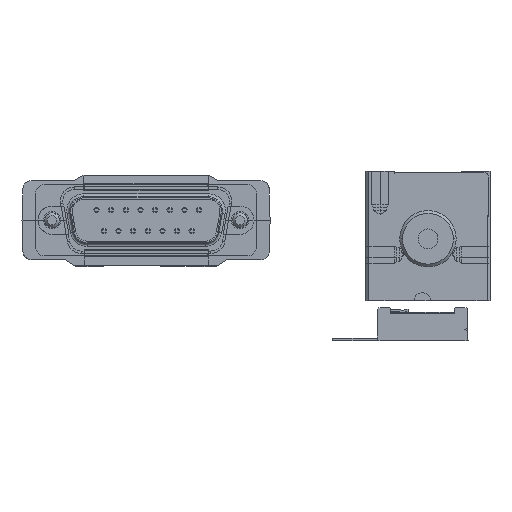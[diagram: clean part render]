
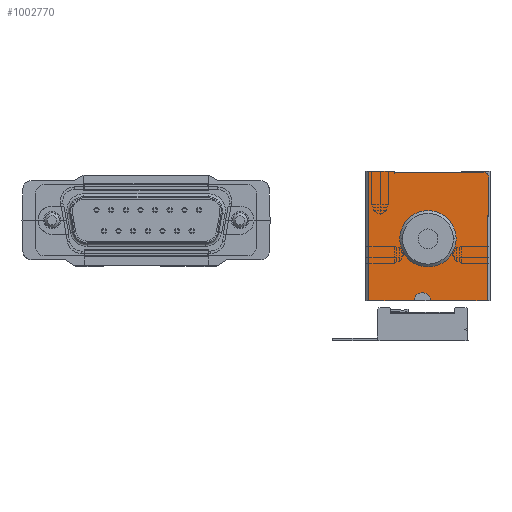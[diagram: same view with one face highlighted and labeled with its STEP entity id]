
A CAD part, front view. The second image highlights one B-rep face of the part: STEP entity #1002770.
In plain terms, the highlighted planar face has unit normal (0, -1, 0) as drawn and (1, 0, 0) by its records, which use the part's own axes.
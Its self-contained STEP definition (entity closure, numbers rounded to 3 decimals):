
#994090=CARTESIAN_POINT('',(40.,22.,0.));
#994100=DIRECTION('',(0.,-1.,0.));
#994110=VECTOR('',#994100,1.);
#994120=LINE('',#994090,#994110);
#994130=CARTESIAN_POINT('',(40.,5.,0.));
#994140=VERTEX_POINT('',#994130);
#994150=CARTESIAN_POINT('',(40.,0.5,0.));
#994160=VERTEX_POINT('',#994150);
#994170=EDGE_CURVE('',#994140,#994160,#994120,.T.);
#997040=CARTESIAN_POINT('',(40.,0.5,-23.));
#997050=VERTEX_POINT('',#997040);
#997080=CARTESIAN_POINT('',(40.,0.,-23.));
#997090=DIRECTION('',(0.,1.,0.));
#997100=VECTOR('',#997090,1.);
#997110=LINE('',#997080,#997100);
#997120=CARTESIAN_POINT('',(40.,8.6,-23.));
#997130=VERTEX_POINT('',#997120);
#997140=EDGE_CURVE('',#997050,#997130,#997110,.T.);
#997360=CARTESIAN_POINT('',(40.,11.4,-23.));
#997370=VERTEX_POINT('',#997360);
#997400=CARTESIAN_POINT('',(40.,21.5,-23.));
#997410=VERTEX_POINT('',#997400);
#997420=EDGE_CURVE('',#997370,#997410,#997110,.T.);
#999340=CARTESIAN_POINT('',(40.,11.4,0.));
#999350=DIRECTION('',(0.,0.,1.));
#999360=VECTOR('',#999350,1.);
#999370=LINE('',#999340,#999360);
#999380=CARTESIAN_POINT('',(40.,11.4,-22.8));
#999390=VERTEX_POINT('',#999380);
#999400=EDGE_CURVE('',#997370,#999390,#999370,.T.);
#1000070=CARTESIAN_POINT('',(40.,9.8,-22.8));
#1000080=DIRECTION('',(-1.,0.,0.));
#1000090=DIRECTION('',(0.,1.,0.));
#1000100=AXIS2_PLACEMENT_3D('',#1000070,#1000080,#1000090);
#1000110=CIRCLE('',#1000100,1.2);
#1000120=CARTESIAN_POINT('',(40.,8.6,-22.8));
#1000130=VERTEX_POINT('',#1000120);
#1000140=CARTESIAN_POINT('',(40.,9.8,-21.6));
#1000150=VERTEX_POINT('',#1000140);
#1000160=EDGE_CURVE('',#1000130,#1000150,#1000110,.T.);
#1000390=CARTESIAN_POINT('',(40.,0.,-21.6));
#1000400=DIRECTION('',(0.,-1.,0.));
#1000410=VECTOR('',#1000400,1.);
#1000420=LINE('',#1000390,#1000410);
#1000430=CARTESIAN_POINT('',(40.,10.2,-21.6));
#1000440=VERTEX_POINT('',#1000430);
#1000450=EDGE_CURVE('',#1000440,#1000150,#1000420,.T.);
#1000650=CARTESIAN_POINT('',(40.,10.2,-22.8));
#1000660=DIRECTION('',(-1.,0.,0.));
#1000670=DIRECTION('',(0.,1.,0.));
#1000680=AXIS2_PLACEMENT_3D('',#1000650,#1000660,#1000670);
#1000690=CIRCLE('',#1000680,1.2);
#1000700=EDGE_CURVE('',#1000440,#999390,#1000690,.T.);
#1000830=CARTESIAN_POINT('',(40.,8.6,0.));
#1000840=DIRECTION('',(0.,0.,-1.));
#1000850=VECTOR('',#1000840,1.);
#1000860=LINE('',#1000830,#1000850);
#1000870=EDGE_CURVE('',#1000130,#997130,#1000860,.T.);
#1000980=CARTESIAN_POINT('',(40.,5.846,-7.9));
#1000990=DIRECTION('',(0.,-1.,0.));
#1001000=VECTOR('',#1000990,1.);
#1001010=LINE('',#1000980,#1001000);
#1001020=CARTESIAN_POINT('',(40.,21.8,-7.9));
#1001030=VERTEX_POINT('',#1001020);
#1001040=CARTESIAN_POINT('',(40.,21.5,-7.9));
#1001050=VERTEX_POINT('',#1001040);
#1001060=EDGE_CURVE('',#1001030,#1001050,#1001010,.T.);
#1001790=CARTESIAN_POINT('',(40.,0.1,-0.8))
;
#1001800=DIRECTION('',(1.,-0.,0.));
#1001810=DIRECTION('',(0.,0.,-1.));
#1001820=AXIS2_PLACEMENT_3D('',#1001790,#1001800,#1001810);
#1001830=PLANE('',#1001820);
#1001840=CARTESIAN_POINT('',(40.,20.9,-1.1));
#1001850=DIRECTION('',(1.,0.,0.));
#1001860=DIRECTION('',(0.,-1.,0.));
#1001870=AXIS2_PLACEMENT_3D('',#1001840,#1001850,#1001860);
#1001880=CIRCLE('',#1001870,0.9);
#1001890=CARTESIAN_POINT('',(40.,21.8,-1.1));
#1001900=VERTEX_POINT('',#1001890);
#1001910=CARTESIAN_POINT('',(40.,20.9,-0.2));
#1001920=VERTEX_POINT('',#1001910);
#1001930=EDGE_CURVE('',#1001900,#1001920,#1001880,.T.);
#1001940=ORIENTED_EDGE('',*,*,#1001930,.T.);
#1001950=CARTESIAN_POINT('',(40.,21.8,-0.8));
#1001960=DIRECTION('',(0.,0.,1.));
#1001970=VECTOR('',#1001960,1.);
#1001980=LINE('',#1001950,#1001970);
#1001990=EDGE_CURVE('',#1001030,#1001900,#1001980,.T.);
#1002000=ORIENTED_EDGE('',*,*,#1001990,.T.);
#1002010=ORIENTED_EDGE('',*,*,#1001060,.F.);
#1002020=CARTESIAN_POINT('',(40.,21.5,0.));
#1002030=DIRECTION('',(0.,0.,1.));
#1002040=VECTOR('',#1002030,1.);
#1002050=LINE('',#1002020,#1002040);
#1002060=CARTESIAN_POINT('',(40.,21.5,-8.));
#1002070=VERTEX_POINT('',#1002060);
#1002080=EDGE_CURVE('',#1002070,#1001050,#1002050,.T.);
#1002090=ORIENTED_EDGE('',*,*,#1002080,.T.);
#1002100=CARTESIAN_POINT('',(40.,21.5,-15.5));
#1002110=DIRECTION('',(0.,0.,-1.));
#1002120=VECTOR('',#1002110,1.);
#1002130=LINE('',#1002100,#1002120);
#1002140=EDGE_CURVE('',#1002070,#997410,#1002130,.T.);
#1002150=ORIENTED_EDGE('',*,*,#1002140,.F.);
#1002160=ORIENTED_EDGE('',*,*,#997420,.T.);
#1002170=ORIENTED_EDGE('',*,*,#999400,.F.);
#1002180=ORIENTED_EDGE('',*,*,#1000700,.T.);
#1002190=ORIENTED_EDGE('',*,*,#1000450,.F.);
#1002200=ORIENTED_EDGE('',*,*,#1000160,.T.);
#1002210=ORIENTED_EDGE('',*,*,#1000870,.F.);
#1002220=ORIENTED_EDGE('',*,*,#997140,.T.);
#1002230=CARTESIAN_POINT('',(40.,0.5,-11.5));
#1002240=DIRECTION('',(0.,0.,-1.));
#1002250=VECTOR('',#1002240,1.);
#1002260=LINE('',#1002230,#1002250);
#1002270=EDGE_CURVE('',#994160,#997050,#1002260,.T.);
#1002280=ORIENTED_EDGE('',*,*,#1002270,.T.);
#1002290=ORIENTED_EDGE('',*,*,#994170,.T.);
#1002300=CARTESIAN_POINT('',(40.,5.,0.));
#1002310=DIRECTION('',(0.,0.,-1.));
#1002320=VECTOR('',#1002310,1.);
#1002330=LINE('',#1002300,#1002320);
#1002340=CARTESIAN_POINT('',(40.,5.,-0.5));
#1002350=VERTEX_POINT('',#1002340);
#1002360=EDGE_CURVE('',#994140,#1002350,#1002330,.T.);
#1002370=ORIENTED_EDGE('',*,*,#1002360,.F.);
#1002380=CARTESIAN_POINT('',(40.,0.,-0.5));
#1002390=DIRECTION('',(0.,-1.,0.));
#1002400=VECTOR('',#1002390,1.);
#1002410=LINE('',#1002380,#1002400);
#1002420=CARTESIAN_POINT('',(40.,5.05,-0.5));
#1002430=VERTEX_POINT('',#1002420);
#1002440=EDGE_CURVE('',#1002430,#1002350,#1002410,.T.);
#1002450=ORIENTED_EDGE('',*,*,#1002440,.T.);
#1002460=CARTESIAN_POINT('',(40.,5.05,-0.8));
#1002470=DIRECTION('',(0.,0.,1.));
#1002480=VECTOR('',#1002470,1.);
#1002490=LINE('',#1002460,#1002480);
#1002500=CARTESIAN_POINT('',(40.,5.05,-0.2));
#1002510=VERTEX_POINT('',#1002500);
#1002520=EDGE_CURVE('',#1002430,#1002510,#1002490,.T.);
#1002530=ORIENTED_EDGE('',*,*,#1002520,.F.);
#1002540=CARTESIAN_POINT('',(40.,5.646,-0.2));
#1002550=DIRECTION('',(0.,1.,0.));
#1002560=VECTOR('',#1002550,1.);
#1002570=LINE('',#1002540,#1002560);
#1002580=EDGE_CURVE('',#1002510,#1001920,#1002570,.T.);
#1002590=ORIENTED_EDGE('',*,*,#1002580,.F.);
#1002600=EDGE_LOOP('',(#1002590,#1002530,#1002450,#1002370,#1002290,
#1002280,#1002220,#1002210,#1002200,#1002190,#1002180,#1002170,#1002160,
#1002150,#1002090,#1002010,#1002000,#1001940));
#1002610=FACE_OUTER_BOUND('',#1002600,.T.);
#1002620=CARTESIAN_POINT('',(40.,11.,-12.));
#1002630=DIRECTION('',(1.,0.,0.));
#1002640=DIRECTION('',(0.,1.,0.));
#1002650=AXIS2_PLACEMENT_3D('',#1002620,#1002630,#1002640);
#1002660=CIRCLE('',#1002650,5.);
#1002670=CARTESIAN_POINT('',(40.,16.,-12.));
#1002680=VERTEX_POINT('',#1002670);
#1002690=CARTESIAN_POINT('',(40.,6.,-12.));
#1002700=VERTEX_POINT('',#1002690);
#1002710=EDGE_CURVE('',#1002680,#1002700,#1002660,.T.);
#1002720=ORIENTED_EDGE('',*,*,#1002710,.F.);
#1002730=EDGE_CURVE('',#1002700,#1002680,#1002660,.T.);
#1002740=ORIENTED_EDGE('',*,*,#1002730,.F.);
#1002750=EDGE_LOOP('',(#1002740,#1002720));
#1002760=FACE_BOUND('',#1002750,.T.);
#1002770=ADVANCED_FACE('',(#1002610,#1002760),#1001830,.T.);
